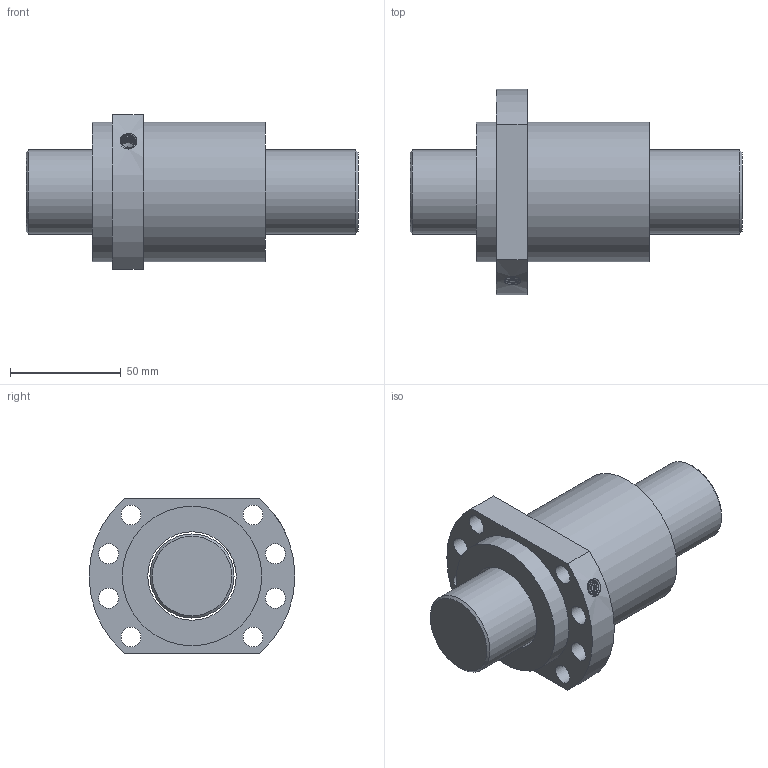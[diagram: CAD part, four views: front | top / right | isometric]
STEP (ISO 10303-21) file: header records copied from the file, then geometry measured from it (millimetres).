
FILE_DESCRIPTION(/* description */ ('Unknown','CAx-IF Rec.Pracs.---Representation and Presentation of Product Manufacturing Information (PMI)---4.0---2014-10-13','CAx-IF Rec.Pracs.---3D Tessellated Geometry---0.4---2014-09-14','2;1'),/* implementation_level */ '2;1');
FILE_NAME(/* name */ 'SFA4020-3.8',/* time_stamp */ '2020-12-08T11:36:52+08:00',/* author */ ('Unknown'),/* organization */ ('Unknown'),/* preprocessor_version */ 'ST-DEVELOPER v16.7',/* originating_system */ 'Solid Edge',/* authorisation */ 'Unknown');
FILE_SCHEMA (('AP242_MANAGED_MODEL_BASED_3D_ENGINEERING_MIM_LF { 1 0 10303 442 1 1 4 }'));
Length unit declared in the file: millimetre
Products named in the file (1): SFA4020-3.8
Bounding box: 150 x 93 x 70 mm (x, y, z)
Volume: 345353.9 mm3; surface area: 58218.9 mm2
Topology: 2 solids, 2 shells, 32 faces, 76 edges, 50 vertices
Faces by surface type: cylinder 18, plane 9, cone 3, bspline 2
Full cylindrical faces by diameter (mm): 4 x1, 6.917 x1, 9 x8, 38 x1, 40 x1, 63 x2
Entity records: 2736 total; most frequent: CARTESIAN_POINT 1976, DIRECTION 146, ORIENTED_EDGE 108, EDGE_LOOP 71, FACE_BOUND 71, AXIS2_PLACEMENT_3D 70, EDGE_CURVE 54, VERTEX_POINT 45
